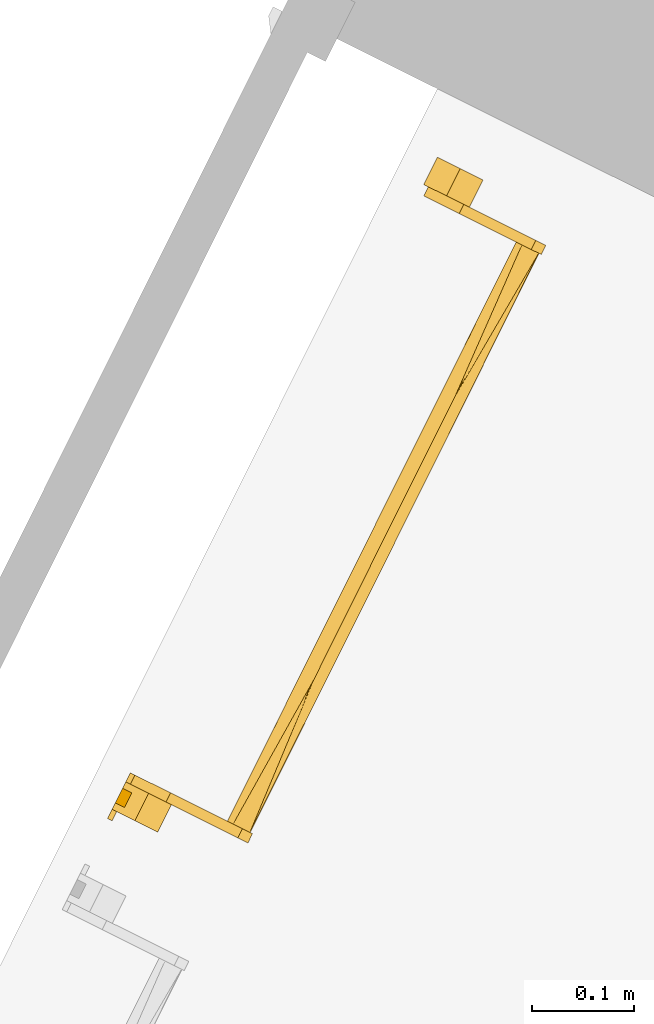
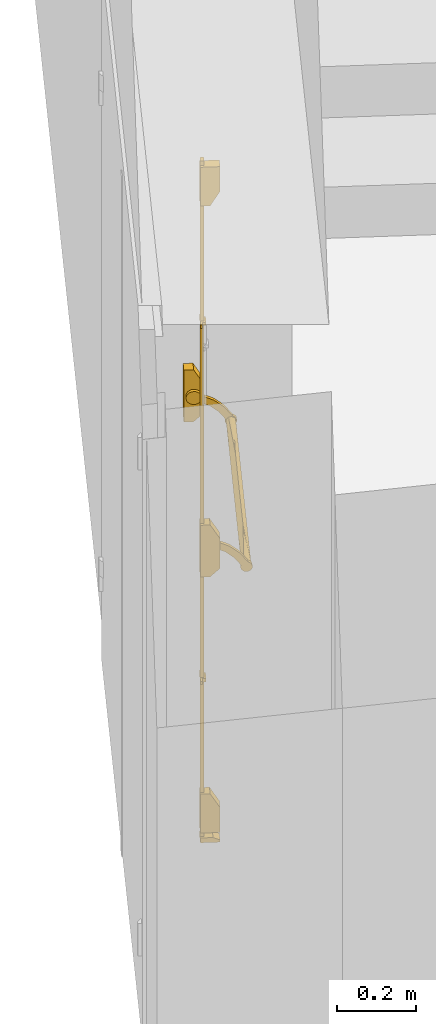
# One storey, part 31 of 91: 1 door.
"""IFC2X3 building model written with IfcOpenShell, lengths in metres."""

from ifc_helpers import new_model, entity, si_unit, converted_unit, derived_unit, direction, frame, origin, place, context, subcontext, project, spatial, faceted_brep, source, transform, mapped, material, material_list, type_object, type_shapes, element, save


model = new_model("IFC2X3")

# Units and contexts
model_context = context("Model", 3, precision=1e-05, world=origin(), true_north=direction((0.894925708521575, 0.446215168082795)))
context_of_model = context(None, 3, precision=1e-05, world=origin(), true_north=direction((0.894925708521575, 0.446215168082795)))
body_context = subcontext(model_context, "Body", "Model", "MODEL_VIEW")
ifc_project = project(units=[si_unit("LENGTHUNIT", "METRE"), si_unit("AREAUNIT", "SQUARE_METRE"), si_unit("VOLUMEUNIT", "CUBIC_METRE"), converted_unit("PLANEANGLEUNIT", "DEGREE", entity("IfcRatioMeasure", 0.0174532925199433), si_unit("PLANEANGLEUNIT", "RADIAN"), dimensions=[0, 0, 0, 0, 0, 0, 0]), si_unit("MASSUNIT", "GRAM", prefix="KILO"), si_unit("TIMEUNIT", "SECOND"), si_unit("FREQUENCYUNIT", "HERTZ"), si_unit("THERMODYNAMICTEMPERATUREUNIT", "DEGREE_CELSIUS"), derived_unit("THERMALTRANSMITTANCEUNIT", [(si_unit("MASSUNIT", "GRAM", prefix="KILO"), 1), (si_unit("THERMODYNAMICTEMPERATUREUNIT", "KELVIN"), -1), (si_unit("TIMEUNIT", "SECOND"), -3)]), derived_unit("VOLUMETRICFLOWRATEUNIT", [(si_unit("LENGTHUNIT", "METRE"), 3), (si_unit("TIMEUNIT", "SECOND"), -1)]), si_unit("ELECTRICCURRENTUNIT", "AMPERE"), si_unit("ELECTRICVOLTAGEUNIT", "VOLT"), si_unit("POWERUNIT", "WATT"), si_unit("FORCEUNIT", "NEWTON", prefix="KILO"), si_unit("ILLUMINANCEUNIT", "LUX"), si_unit("LUMINOUSFLUXUNIT", "LUMEN"), si_unit("LUMINOUSINTENSITYUNIT", "CANDELA"), si_unit("PRESSUREUNIT", "PASCAL")], contexts=[model_context, context_of_model])

# Site, building, storey
site_placement = place(None, frame((218.228324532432, 584.720189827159, 0.0), z_axis=(0.0, 0.0, 1.0), x_axis=(0.446215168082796, 0.894925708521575, 0.0)))
site = spatial("IfcSite", under=ifc_project, at=site_placement, Name="Default", CompositionType="ELEMENT")
building_placement = place(site_placement, origin())
building = spatial("IfcBuilding", under=site, at=building_placement, CompositionType="ELEMENT")
storey_placement = place(building_placement, origin())
storey = spatial("IfcBuildingStorey", under=building, at=storey_placement, Name="0 - Piano Terra", CompositionType="ELEMENT", Elevation=0.0)

# Door
ifc_material_1 = material(Name="Peinture - Gris fonçé")
ifc_material_2 = material(Name="Peinture - Gris")
ifc_material_list_1 = material_list([ifc_material_1, ifc_material_2])
ifc_material_list_2 = material_list([ifc_material_1, ifc_material_2])
door_style = type_object("IfcDoorStyle", Name="BarreAP", ConstructionType="NOTDEFINED", OperationType="NOTDEFINED", ParameterTakesPrecedence=False, Sizeable=False, material=ifc_material_list_2)
shared_shape = source(origin(), body_context, "Body", "Brep", [
    faceted_brep([(0.660000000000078, -0.115651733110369, 0.814015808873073), (0.660000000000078, -0.112636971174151, 0.815264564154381), (0.660000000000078, -0.110048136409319, 0.817251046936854), (0.660000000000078, -0.108061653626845, 0.819839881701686), (0.660000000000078, -0.106812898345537, 0.822854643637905), (0.660000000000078, -0.106386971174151, 0.826089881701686), (0.660000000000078, -0.106812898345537, 0.829325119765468), (0.660000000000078, -0.108061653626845, 0.832339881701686), (0.660000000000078, -0.110048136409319, 0.834928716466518), (0.660000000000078, -0.112636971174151, 0.836915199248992), (0.660000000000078, -0.115651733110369, 0.838163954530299), (0.660000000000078, -0.118886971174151, 0.838589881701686), (0.660000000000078, -0.122122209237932, 0.838163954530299), (0.660000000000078, -0.125136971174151, 0.836915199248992), (0.660000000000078, -0.127725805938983, 0.834928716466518), (0.660000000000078, -0.129712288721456, 0.832339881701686), (0.660000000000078, -0.130961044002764, 0.829325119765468), (0.660000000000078, -0.131386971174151, 0.826089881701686), (0.660000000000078, -0.130961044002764, 0.822854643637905), (0.660000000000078, -0.129712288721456, 0.819839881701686), (0.660000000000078, -0.127725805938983, 0.817251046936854), (0.660000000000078, -0.125136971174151, 0.815264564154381), (0.660000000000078, -0.122122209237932, 0.814015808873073), (0.660000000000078, -0.118886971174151, 0.813589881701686), (0.0250000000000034, -0.122122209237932, 0.838163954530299), (0.0250000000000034, -0.118886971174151, 0.838589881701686), (0.0250000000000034, -0.115651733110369, 0.838163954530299), (0.0250000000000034, -0.112636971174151, 0.836915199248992), (0.0250000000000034, -0.110048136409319, 0.834928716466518), (0.0250000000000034, -0.108061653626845, 0.832339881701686), (0.0250000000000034, -0.106812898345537, 0.829325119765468), (0.0250000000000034, -0.106386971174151, 0.826089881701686), (0.0250000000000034, -0.106812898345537, 0.822854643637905), (0.0250000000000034, -0.108061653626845, 0.819839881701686), (0.0250000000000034, -0.110048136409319, 0.817251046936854), (0.0250000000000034, -0.112636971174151, 0.815264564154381), (0.0250000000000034, -0.115651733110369, 0.814015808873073), (0.0250000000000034, -0.118886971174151, 0.813589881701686), (0.0250000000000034, -0.122122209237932, 0.814015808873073), (0.0250000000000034, -0.125136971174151, 0.815264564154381), (0.0250000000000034, -0.127725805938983, 0.817251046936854), (0.0250000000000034, -0.129712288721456, 0.819839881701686), (0.0250000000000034, -0.130961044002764, 0.822854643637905), (0.0250000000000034, -0.131386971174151, 0.826089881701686), (0.0250000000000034, -0.130961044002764, 0.829325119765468), (0.0250000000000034, -0.129712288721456, 0.832339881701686), (0.0250000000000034, -0.127725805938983, 0.834928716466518), (0.0250000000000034, -0.125136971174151, 0.836915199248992), (0.187822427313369, -0.117501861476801, 0.813666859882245), (0.148450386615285, -0.131386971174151, 0.826089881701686), (0.342500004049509, -0.117635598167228, 0.813652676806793), (0.27190080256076, -0.106386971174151, 0.826089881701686), (0.342500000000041, -0.106386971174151, 0.826089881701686), (0.413099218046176, -0.106386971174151, 0.826089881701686), (0.497177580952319, -0.117501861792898, 0.813666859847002), (0.536549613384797, -0.131386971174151, 0.826089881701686), (0.342500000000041, -0.131386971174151, 0.826089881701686), (0.413099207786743, -0.131386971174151, 0.826089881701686), (0.536549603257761, -0.106386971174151, 0.826089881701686), (0.14845039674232, -0.106386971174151, 0.826089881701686), (0.271900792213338, -0.131386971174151, 0.826089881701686), (0.49717758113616, -0.120272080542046, 0.83851290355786), (0.187822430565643, -0.120272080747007, 0.838512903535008), (0.342500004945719, -0.120138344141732, 0.838527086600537)], [[[0, 1, 2, 3, 4, 5, 6, 7, 8, 9, 10, 11, 12, 13, 14, 15, 16, 17, 18, 19, 20, 21, 22, 23]], [[24, 25, 26, 27, 28, 29, 30, 31, 32, 33, 34, 35, 36, 37, 38, 39, 40, 41, 42, 43, 44, 45, 46, 47]], [[35, 48, 36]], [[38, 48, 39]], [[39, 49, 40]], [[48, 35, 34]], [[50, 51, 52, 53]], [[23, 54, 0]], [[55, 20, 19]], [[49, 41, 40]], [[55, 54, 21]], [[37, 36, 48]], [[41, 49, 42]], [[42, 49, 43]], [[18, 17, 55]], [[48, 50, 56]], [[54, 56, 50]], [[54, 55, 57, 56]], [[4, 3, 54]], [[55, 19, 18]], [[37, 48, 38]], [[34, 33, 48]], [[32, 48, 33]], [[48, 32, 51]], [[50, 48, 51]], [[4, 53, 58, 5]], [[32, 31, 59, 51]], [[48, 56, 60, 49]], [[20, 55, 21]], [[22, 21, 54]], [[4, 54, 53]], [[23, 22, 54]], [[54, 2, 1]], [[1, 0, 54]], [[49, 39, 48]], [[50, 53, 54]], [[3, 2, 54]], [[16, 15, 61]], [[59, 27, 62]], [[16, 61, 57]], [[62, 27, 26]], [[62, 63, 52]], [[15, 14, 61]], [[8, 7, 58]], [[59, 29, 28]], [[62, 25, 24]], [[58, 61, 9]], [[59, 31, 30]], [[6, 5, 58]], [[11, 61, 12]], [[7, 6, 58]], [[52, 63, 61]], [[25, 62, 26]], [[28, 27, 59]], [[47, 46, 62]], [[61, 58, 53, 52]], [[63, 60, 56, 57]], [[29, 59, 30]], [[45, 62, 46]], [[44, 62, 45]], [[62, 44, 60]], [[63, 62, 60]], [[16, 57, 55, 17]], [[44, 43, 49, 60]], [[47, 62, 24]], [[8, 58, 9]], [[61, 10, 9]], [[11, 10, 61]], [[14, 13, 61]], [[12, 61, 13]], [[63, 57, 61]], [[62, 52, 51, 59]]]),
    faceted_brep([(0.660000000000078, -0.0338758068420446, 0.91792261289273), (0.660000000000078, -0.0289439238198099, 0.919607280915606), (0.660000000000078, -0.0237442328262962, 0.919960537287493), (0.660000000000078, -0.0186298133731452, 0.918958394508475), (0.660000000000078, -0.0139479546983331, 0.916668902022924), (0.660000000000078, -0.0100165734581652, 0.913247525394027), (0.660000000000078, -0.00710262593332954, 0.908926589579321), (0.660000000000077, -0.00540398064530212, 0.903999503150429), (0.660000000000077, -0.00503598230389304, 0.898800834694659), (0.660000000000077, -0.0060236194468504, 0.893683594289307), (0.660000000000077, -0.00829982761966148, 0.888995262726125), (0.660000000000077, -0.0117100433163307, 0.885054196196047), (0.660000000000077, -0.0160226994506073, 0.88212800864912), (0.660000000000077, -0.0209449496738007, 0.880415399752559), (0.660000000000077, -0.0261425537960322, 0.880032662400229), (0.660000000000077, -0.0312625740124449, 0.881005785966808), (0.660000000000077, -0.0359573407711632, 0.883268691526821), (0.660000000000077, -0.039908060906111, 0.886667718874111), (0.660000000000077, -0.065856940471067, 0.873811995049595), (0.660000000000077, -0.0879705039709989, 0.855114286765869), (0.660000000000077, -0.10496092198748, 0.831663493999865), (0.660000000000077, -0.104007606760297, 0.827988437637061), (0.660000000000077, -0.10400755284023, 0.824191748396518), (0.660000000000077, -0.104960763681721, 0.820516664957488), (0.660000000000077, -0.106806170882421, 0.817198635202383), (0.660000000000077, -0.109425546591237, 0.814450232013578), (0.660000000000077, -0.112651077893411, 0.812447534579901), (0.660000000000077, -0.11627611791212, 0.811318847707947), (0.660000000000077, -0.120068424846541, 0.811136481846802), (0.660000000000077, -0.123785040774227, 0.811912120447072), (0.660000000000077, -0.127187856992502, 0.813596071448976), (0.660000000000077, -0.130058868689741, 0.816080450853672), (0.660000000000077, -0.132214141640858, 0.819206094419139), (0.660000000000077, -0.133515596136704, 0.822772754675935), (0.660000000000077, -0.133879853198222, 0.826551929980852), (0.660000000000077, -0.133283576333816, 0.830301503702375), (0.660000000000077, -0.13176496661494, 0.833781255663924), (0.660000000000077, -0.129421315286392, 0.836768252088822), (0.660000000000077, -0.126402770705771, 0.839071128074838), (0.660000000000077, -0.122902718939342, 0.840542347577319), (0.660000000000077, -0.10242643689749, 0.868938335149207), (0.660000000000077, -0.0755453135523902, 0.891366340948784), (0.660000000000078, -0.0439402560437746, 0.906423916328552), (0.660000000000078, -0.041637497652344, 0.911099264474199), (0.660000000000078, -0.0382049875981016, 0.915020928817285), (0.670000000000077, -0.127187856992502, 0.813596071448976), (0.670000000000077, -0.123785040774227, 0.811912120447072), (0.670000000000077, -0.120068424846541, 0.811136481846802), (0.670000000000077, -0.11627611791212, 0.811318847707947), (0.670000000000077, -0.112651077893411, 0.812447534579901), (0.670000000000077, -0.109425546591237, 0.814450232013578), (0.670000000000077, -0.106806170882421, 0.817198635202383), (0.670000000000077, -0.104960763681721, 0.820516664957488), (0.670000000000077, -0.10400755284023, 0.824191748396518), (0.670000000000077, -0.104007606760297, 0.827988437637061), (0.670000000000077, -0.10496092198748, 0.831663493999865), (0.670000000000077, -0.0879705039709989, 0.855114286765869), (0.670000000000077, -0.065856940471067, 0.873811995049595), (0.670000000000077, -0.039908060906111, 0.886667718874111), (0.670000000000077, -0.0359573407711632, 0.883268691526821), (0.670000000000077, -0.0312625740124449, 0.881005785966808), (0.670000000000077, -0.0261425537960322, 0.880032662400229), (0.670000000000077, -0.0209449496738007, 0.880415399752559), (0.670000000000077, -0.0160226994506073, 0.88212800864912), (0.670000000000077, -0.0117100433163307, 0.885054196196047), (0.670000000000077, -0.00829982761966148, 0.888995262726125), (0.670000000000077, -0.0060236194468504, 0.893683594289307), (0.670000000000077, -0.00503598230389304, 0.898800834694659), (0.670000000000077, -0.00540398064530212, 0.903999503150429), (0.670000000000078, -0.00710262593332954, 0.908926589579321), (0.670000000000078, -0.0100165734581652, 0.913247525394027), (0.670000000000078, -0.0139479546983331, 0.916668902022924), (0.670000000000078, -0.0186298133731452, 0.918958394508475), (0.670000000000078, -0.0237442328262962, 0.919960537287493), (0.670000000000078, -0.0289439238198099, 0.919607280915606), (0.670000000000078, -0.0338758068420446, 0.91792261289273), (0.670000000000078, -0.0382049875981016, 0.915020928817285), (0.670000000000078, -0.041637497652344, 0.911099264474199), (0.670000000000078, -0.0439402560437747, 0.906423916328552), (0.670000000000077, -0.0755453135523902, 0.891366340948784), (0.670000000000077, -0.10242643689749, 0.868938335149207), (0.670000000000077, -0.122902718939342, 0.840542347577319), (0.670000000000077, -0.126402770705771, 0.839071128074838), (0.670000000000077, -0.129421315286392, 0.836768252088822), (0.670000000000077, -0.13176496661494, 0.833781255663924), (0.670000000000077, -0.133283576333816, 0.830301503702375), (0.670000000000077, -0.133879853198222, 0.826551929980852), (0.670000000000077, -0.133515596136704, 0.822772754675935), (0.670000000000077, -0.132214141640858, 0.819206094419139), (0.670000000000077, -0.130058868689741, 0.816080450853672)], [[[0, 1, 2, 3, 4, 5, 6, 7, 8, 9, 10, 11, 12, 13, 14, 15, 16, 17, 18, 19, 20, 21, 22, 23, 24, 25, 26, 27, 28, 29, 30, 31, 32, 33, 34, 35, 36, 37, 38, 39, 40, 41, 42, 43, 44]], [[45, 46, 47, 48, 49, 50, 51, 52, 53, 54, 55, 56, 57, 58, 59, 60, 61, 62, 63, 64, 65, 66, 67, 68, 69, 70, 71, 72, 73, 74, 75, 76, 77, 78, 79, 80, 81, 82, 83, 84, 85, 86, 87, 88, 89]], [[77, 43, 42, 78]], [[75, 0, 44, 76]], [[44, 43, 77, 76]], [[1, 0, 75, 74]], [[3, 2, 73, 72]], [[5, 4, 71, 70]], [[72, 71, 4, 3]], [[74, 73, 2, 1]], [[69, 6, 5, 70]], [[6, 69, 68, 7]], [[67, 8, 7, 68]], [[65, 10, 9, 66]], [[9, 8, 67, 66]], [[11, 10, 65, 64]], [[13, 12, 63, 62]], [[15, 14, 61, 60]], [[62, 61, 14, 13]], [[64, 63, 12, 11]], [[59, 16, 15, 60]], [[59, 58, 17, 16]], [[58, 57, 18, 17]], [[57, 56, 19, 18]], [[56, 55, 20, 19]], [[54, 21, 20, 55]], [[52, 23, 22, 53]], [[22, 21, 54, 53]], [[24, 23, 52, 51]], [[26, 25, 50, 49]], [[28, 27, 48, 47]], [[49, 48, 27, 26]], [[51, 50, 25, 24]], [[46, 29, 28, 47]], [[46, 45, 30, 29]], [[89, 31, 30, 45]], [[87, 33, 32, 88]], [[32, 31, 89, 88]], [[34, 33, 87, 86]], [[36, 35, 85, 84]], [[38, 37, 83, 82]], [[84, 83, 37, 36]], [[86, 85, 35, 34]], [[81, 39, 38, 82]], [[81, 80, 40, 39]], [[80, 79, 41, 40]], [[79, 78, 42, 41]]]),
    faceted_brep([(0.025, -0.129421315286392, 0.836768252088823), (0.025, -0.13176496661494, 0.833781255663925), (0.025, -0.133283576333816, 0.830301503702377), (0.025, -0.133879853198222, 0.826551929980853), (0.025, -0.133515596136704, 0.822772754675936), (0.025, -0.132214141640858, 0.819206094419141), (0.025, -0.130058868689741, 0.816080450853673), (0.025, -0.127187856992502, 0.813596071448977), (0.025, -0.123785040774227, 0.811912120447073), (0.025, -0.120068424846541, 0.811136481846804), (0.025, -0.11627611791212, 0.811318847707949), (0.025, -0.112651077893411, 0.812447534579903), (0.025, -0.109425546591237, 0.81445023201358), (0.025, -0.106806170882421, 0.817198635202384), (0.025, -0.104960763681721, 0.82051666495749), (0.025, -0.10400755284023, 0.824191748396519), (0.025, -0.104007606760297, 0.827988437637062), (0.025, -0.10496092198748, 0.831663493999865), (0.025, -0.0879705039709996, 0.85511428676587), (0.025, -0.0658569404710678, 0.873811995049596), (0.025, -0.0399080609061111, 0.886667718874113), (0.025, -0.0359573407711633, 0.883268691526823), (0.025, -0.031262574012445, 0.881005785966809), (0.025, -0.0261425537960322, 0.88003266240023), (0.025, -0.0209449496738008, 0.880415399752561), (0.025, -0.0160226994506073, 0.882128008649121), (0.025, -0.0117100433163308, 0.885054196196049), (0.025, -0.00829982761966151, 0.888995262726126), (0.025, -0.00602361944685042, 0.893683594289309), (0.025, -0.00503598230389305, 0.89880083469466), (0.025, -0.00540398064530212, 0.903999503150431), (0.025, -0.00710262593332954, 0.908926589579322), (0.025, -0.0100165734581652, 0.913247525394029), (0.025, -0.0139479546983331, 0.916668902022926), (0.025, -0.0186298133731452, 0.918958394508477), (0.025, -0.0237442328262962, 0.919960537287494), (0.025, -0.0289439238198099, 0.919607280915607), (0.025, -0.0338758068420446, 0.917922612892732), (0.025, -0.0382049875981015, 0.915020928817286), (0.025, -0.041637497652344, 0.9110992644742), (0.025, -0.0439402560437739, 0.906423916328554), (0.025, -0.0755453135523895, 0.891366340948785), (0.025, -0.10242643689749, 0.868938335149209), (0.025, -0.122902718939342, 0.84054234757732), (0.025, -0.126402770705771, 0.839071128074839), (0.015, -0.00710262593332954, 0.908926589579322), (0.015, -0.00540398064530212, 0.903999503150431), (0.015, -0.00503598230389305, 0.89880083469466), (0.015, -0.00602361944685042, 0.893683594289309), (0.015, -0.00829982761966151, 0.888995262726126), (0.015, -0.0117100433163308, 0.885054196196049), (0.015, -0.0160226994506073, 0.882128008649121), (0.015, -0.0209449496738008, 0.880415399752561), (0.015, -0.0261425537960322, 0.88003266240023), (0.015, -0.031262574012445, 0.881005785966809), (0.015, -0.0359573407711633, 0.883268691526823), (0.015, -0.0399080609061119, 0.886667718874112), (0.015, -0.0658569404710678, 0.873811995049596), (0.015, -0.0879705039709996, 0.85511428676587), (0.015, -0.10496092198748, 0.831663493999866), (0.015, -0.104007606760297, 0.827988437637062), (0.015, -0.10400755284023, 0.824191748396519), (0.015, -0.104960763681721, 0.82051666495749), (0.015, -0.106806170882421, 0.817198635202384), (0.015, -0.109425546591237, 0.81445023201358), (0.015, -0.112651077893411, 0.812447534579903), (0.015, -0.11627611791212, 0.811318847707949), (0.015, -0.120068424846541, 0.811136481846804), (0.015, -0.123785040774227, 0.811912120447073), (0.015, -0.127187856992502, 0.813596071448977), (0.015, -0.130058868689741, 0.816080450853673), (0.015, -0.132214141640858, 0.819206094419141), (0.015, -0.133515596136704, 0.822772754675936), (0.015, -0.133879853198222, 0.826551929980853), (0.015, -0.133283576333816, 0.830301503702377), (0.015, -0.13176496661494, 0.833781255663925), (0.015, -0.129421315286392, 0.836768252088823), (0.015, -0.126402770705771, 0.839071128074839), (0.015, -0.122902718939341, 0.840542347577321), (0.015, -0.10242643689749, 0.868938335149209), (0.015, -0.0755453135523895, 0.891366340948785), (0.015, -0.0439402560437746, 0.906423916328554), (0.015, -0.041637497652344, 0.9110992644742), (0.015, -0.0382049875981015, 0.915020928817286), (0.015, -0.0338758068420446, 0.917922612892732), (0.015, -0.0289439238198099, 0.919607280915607), (0.015, -0.0237442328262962, 0.919960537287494), (0.015, -0.0186298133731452, 0.918958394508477), (0.015, -0.0139479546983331, 0.916668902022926), (0.015, -0.0100165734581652, 0.913247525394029)], [[[0, 1, 2, 3, 4, 5, 6, 7, 8, 9, 10, 11, 12, 13, 14, 15, 16, 17, 18, 19, 20, 21, 22, 23, 24, 25, 26, 27, 28, 29, 30, 31, 32, 33, 34, 35, 36, 37, 38, 39, 40, 41, 42, 43, 44]], [[45, 46, 47, 48, 49, 50, 51, 52, 53, 54, 55, 56, 57, 58, 59, 60, 61, 62, 63, 64, 65, 66, 67, 68, 69, 70, 71, 72, 73, 74, 75, 76, 77, 78, 79, 80, 81, 82, 83, 84, 85, 86, 87, 88, 89]], [[81, 80, 41, 40]], [[80, 79, 42, 41]], [[79, 78, 43, 42]], [[77, 44, 43, 78]], [[75, 1, 0, 76]], [[0, 44, 77, 76]], [[2, 1, 75, 74]], [[4, 3, 73, 72]], [[6, 5, 71, 70]], [[72, 71, 5, 4]], [[74, 73, 3, 2]], [[69, 7, 6, 70]], [[69, 68, 8, 7]], [[67, 9, 8, 68]], [[65, 11, 10, 66]], [[10, 9, 67, 66]], [[12, 11, 65, 64]], [[14, 13, 63, 62]], [[16, 15, 61, 60]], [[62, 61, 15, 14]], [[64, 63, 13, 12]], [[59, 17, 16, 60]], [[59, 58, 18, 17]], [[58, 57, 19, 18]], [[57, 56, 20, 19]], [[55, 21, 20, 56]], [[53, 23, 22, 54]], [[22, 21, 55, 54]], [[24, 23, 53, 52]], [[26, 25, 51, 50]], [[28, 27, 49, 48]], [[50, 49, 27, 26]], [[52, 51, 25, 24]], [[47, 29, 28, 48]], [[29, 47, 46, 30]], [[45, 31, 30, 46]], [[88, 33, 32, 89]], [[32, 31, 45, 89]], [[34, 33, 88, 87]], [[36, 35, 86, 85]], [[38, 37, 84, 83]], [[85, 84, 37, 36]], [[87, 86, 35, 34]], [[82, 39, 38, 83]], [[82, 81, 40, 39]]]),
    faceted_brep([(0.700000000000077, -0.0500000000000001, 0.936698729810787), (0.700000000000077, -0.0500000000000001, 0.844999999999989), (0.700000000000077, -0.0250000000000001, 0.819999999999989), (0.700000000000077, 0.0, 0.819999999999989), (0.700000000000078, 0.0, 0.980000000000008), (0.700000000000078, -0.0250000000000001, 0.980000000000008), (0.670000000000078, -0.0500000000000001, 0.936698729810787), (0.670000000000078, -0.0250000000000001, 0.980000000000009), (0.670000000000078, 0.0, 0.980000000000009), (0.670000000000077, 0.0, 0.819999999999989), (0.670000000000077, -0.0250000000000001, 0.819999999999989), (0.670000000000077, -0.0500000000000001, 0.844999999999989)], [[[0, 1, 2, 3, 4, 5]], [[6, 7, 8, 9, 10, 11]], [[1, 0, 6, 11]], [[2, 1, 11, 10]], [[3, 2, 10, 9]], [[4, 3, 9, 8]], [[5, 4, 8, 7]], [[0, 5, 7, 6]]]),
    faceted_brep([(-0.0129999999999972, -0.005, 1.605), (-0.0129999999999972, -0.015, 1.605), (0.0130000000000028, -0.015, 1.605), (0.013000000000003, -0.005, 1.605), (0.0250000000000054, -0.005, 1.605), (0.0250000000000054, 0.0, 1.605), (0.00800000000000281, 0.0, 1.605), (0.00800000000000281, -0.01, 1.605), (-0.00799999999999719, -0.01, 1.605), (-0.00799999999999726, 0.0, 1.605), (-0.0249999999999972, 0.0, 1.605), (-0.0249999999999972, -0.005, 1.605), (-0.0129999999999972, -0.005, 1.595), (-0.0249999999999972, -0.005, 1.595), (-0.0249999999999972, 0.0, 1.595), (-0.00799999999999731, 0.0, 1.595), (-0.00799999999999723, -0.01, 1.595), (0.00800000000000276, -0.01, 1.595), (0.00800000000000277, 0.0, 1.595), (0.0250000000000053, 0.0, 1.595), (0.0250000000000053, -0.005, 1.595), (0.013000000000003, -0.005, 1.595), (0.0130000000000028, -0.015, 1.595), (-0.0129999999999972, -0.015, 1.595)], [[[0, 1, 2, 3, 4, 5, 6, 7, 8, 9, 10, 11]], [[12, 13, 14, 15, 16, 17, 18, 19, 20, 21, 22, 23]], [[1, 0, 12, 23]], [[2, 1, 23, 22]], [[3, 2, 22, 21]], [[4, 3, 21, 20]], [[5, 4, 20, 19]], [[6, 5, 19, 18]], [[7, 6, 18, 17]], [[8, 7, 17, 16]], [[9, 8, 16, 15]], [[10, 9, 15, 14]], [[11, 10, 14, 13]], [[0, 11, 13, 12]]]),
    faceted_brep([(0.015, -0.0500000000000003, 2.00830127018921), (0.015, -0.0250000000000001, 1.96499999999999), (0.015, 0.0, 1.96499999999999), (0.015, 0.0, 2.08499999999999), (0.015, -0.0500000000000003, 2.08499999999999), (-0.015, -0.0500000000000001, 0.106698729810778), (-0.015, -0.0250000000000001, 0.15), (-0.015, 0.0, 0.15), (-0.015, 0.0, 0.0300000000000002), (-0.015, -0.0500000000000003, 0.0300000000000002), (-0.015, -0.0500000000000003, 2.00830127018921), (-0.015, -0.0250000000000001, 1.96499999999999), (-0.015, 0.0, 1.96499999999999), (-0.008, 0.0, 1.96499999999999), (-0.008, -0.01, 1.96499999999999), (0.008, -0.01, 1.96499999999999), (0.008, 0.0, 1.96499999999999), (0.008, 0.0, 0.98000000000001), (0.015, 0.0, 0.98000000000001), (0.015, 0.0, 0.819999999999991), (0.008, 0.0, 0.819999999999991), (0.008, 0.0, 0.15), (0.015, 0.0, 0.15), (0.015, 0.0, 0.0300000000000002), (0.008, 0.0, 0.0300000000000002), (0.008, 0.0, 0.0149999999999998), (-0.008, 0.0, 0.0149999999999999), (-0.008, 0.0, 0.0300000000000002), (-0.008, 0.0, 0.15), (-0.008, 0.0, 0.819999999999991), (-0.015, 0.0, 0.819999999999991), (-0.015, 0.0, 0.98000000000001), (-0.008, 0.0, 0.98000000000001), (-0.015, 0.0, 2.08499999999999), (-0.008, 0.0, 2.08499999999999), (-0.008, 0.0, 2.1), (0.008, 0.0, 2.1), (0.008, 0.0, 2.08499999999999), (0.008, -0.01, 2.08499999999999), (-0.008, -0.01, 2.08499999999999), (-0.015, -0.0500000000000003, 2.08499999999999), (0.015, -0.0500000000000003, 0.0300000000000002), (0.015, -0.0500000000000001, 0.106698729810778), (-0.008, -0.01, 0.0300000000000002), (0.008, -0.01, 0.0300000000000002), (0.015, -0.0250000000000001, 0.15), (0.008, -0.01, 0.15), (-0.008, -0.01, 0.15), (-0.008, -0.01, 2.1), (0.008, -0.01, 2.1), (0.008, -0.01, 0.0149999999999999), (-0.008, -0.01, 0.0149999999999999), (0.015, -0.025, 0.98000000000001), (0.015, -0.0500000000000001, 0.936698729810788), (0.015, -0.0500000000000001, 0.844999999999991), (0.015, -0.025, 0.819999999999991), (-0.015, -0.025, 0.98000000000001), (-0.015, -0.025, 0.819999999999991), (-0.015, -0.0500000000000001, 0.844999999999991), (-0.015, -0.0500000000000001, 0.936698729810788), (-0.008, -0.01, 0.819999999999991), (0.008, -0.01, 0.819999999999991), (0.008, -0.01, 0.98000000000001), (-0.008, -0.01, 0.98000000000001)], [[[0, 1, 2, 3, 4]], [[5, 6, 7, 8, 9]], [[1, 0, 10, 11]], [[2, 1, 11, 12, 13, 14, 15, 16]], [[3, 2, 16, 17, 18, 19, 20, 21, 22, 23, 24, 25, 26, 27, 8, 7, 28, 29, 30, 31, 32, 13, 12, 33, 34, 35, 36, 37]], [[4, 3, 37, 38, 39, 34, 33, 40]], [[0, 4, 40, 10]], [[41, 42, 5, 9]], [[23, 41, 9, 8, 27, 43, 44, 24]], [[45, 22, 21, 46, 47, 28, 7, 6]], [[42, 45, 6, 5]], [[36, 35, 48, 49]], [[25, 50, 51, 26]], [[48, 35, 34, 39]], [[49, 48, 39, 38]], [[36, 49, 38, 37]], [[52, 53, 54, 55, 19, 18]], [[56, 31, 30, 57, 58, 59]], [[53, 52, 56, 59]], [[54, 53, 59, 58]], [[55, 54, 58, 57]], [[19, 55, 57, 30, 29, 60, 61, 20]], [[52, 18, 17, 62, 63, 32, 31, 56]], [[16, 15, 62, 17]], [[46, 21, 20, 61]], [[50, 25, 24, 44]], [[15, 14, 63, 62]], [[47, 46, 61, 60]], [[51, 50, 44, 43]], [[14, 13, 32, 63]], [[28, 47, 60, 29]], [[26, 51, 43, 27]], [[10, 40, 33, 12, 11]], [[42, 41, 23, 22, 45]]]),
    faceted_brep([(-0.00799999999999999, -0.01, 0.505), (-0.00800000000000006, 0.0, 0.505), (-0.025, 0.0, 0.505), (-0.025, -0.005, 0.505), (-0.013, -0.005, 0.505), (-0.013, -0.015, 0.505), (0.013, -0.015, 0.504999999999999), (0.013, -0.005, 0.504999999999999), (0.0250000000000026, -0.005, 0.504999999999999), (0.0250000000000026, 0.0, 0.504999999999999), (0.00800000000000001, 0.0, 0.504999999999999), (0.00800000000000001, -0.01, 0.504999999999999), (-0.00800000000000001, -0.01, 0.495), (0.00799999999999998, -0.01, 0.494999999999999), (0.00799999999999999, 0.0, 0.494999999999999), (0.0250000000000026, 0.0, 0.494999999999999), (0.0250000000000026, -0.005, 0.494999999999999), (0.013, -0.005, 0.494999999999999), (0.013, -0.015, 0.494999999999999), (-0.013, -0.015, 0.495), (-0.013, -0.005, 0.495), (-0.025, -0.005, 0.495), (-0.025, 0.0, 0.495), (-0.00800000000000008, 0.0, 0.495)], [[[0, 1, 2, 3, 4, 5, 6, 7, 8, 9, 10, 11]], [[12, 13, 14, 15, 16, 17, 18, 19, 20, 21, 22, 23]], [[1, 0, 12, 23]], [[2, 1, 23, 22]], [[3, 2, 22, 21]], [[4, 3, 21, 20]], [[5, 4, 20, 19]], [[6, 5, 19, 18]], [[7, 6, 18, 17]], [[8, 7, 17, 16]], [[9, 8, 16, 15]], [[10, 9, 15, 14]], [[11, 10, 14, 13]], [[0, 11, 13, 12]]]),
    faceted_brep([(0.015, -0.0322782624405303, 0.015), (0.015, -0.0500000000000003, 0.00673621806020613), (0.015, -0.0500000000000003, 0.0), (0.015, 0.0, 0.0), (0.015, 0.0, 0.0149999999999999), (-0.015, -0.0322782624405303, 0.015), (-0.015, 0.0, 0.0149999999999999), (-0.015, 0.0, 0.0), (-0.015, -0.0500000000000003, 0.0), (-0.015, -0.0500000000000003, 0.00673621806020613)], [[[0, 1, 2, 3, 4]], [[5, 6, 7, 8, 9]], [[1, 0, 5, 9]], [[2, 1, 9, 8]], [[3, 2, 8, 7]], [[4, 3, 7, 6]], [[0, 4, 6, 5]]]),
])
type_shapes(door_style, [shared_shape])
door_placement = place(storey_placement, frame((52.3259369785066, 6.26892100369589, 0.0)))
element("IfcDoor", 1, at=door_placement, inside=storey, type_object=door_style, material=ifc_material_list_1, Name="BarreAP:BarreAP", ObjectType="BarreAP", OverallHeight=2.1, OverallWidth=0.760000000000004, context=body_context, shape_type="MappedRepresentation", body=[
    mapped(shared_shape, transform((0.0, 0.0, 0.0), scale=1.0)),
])

save(model, "model.ifc")
